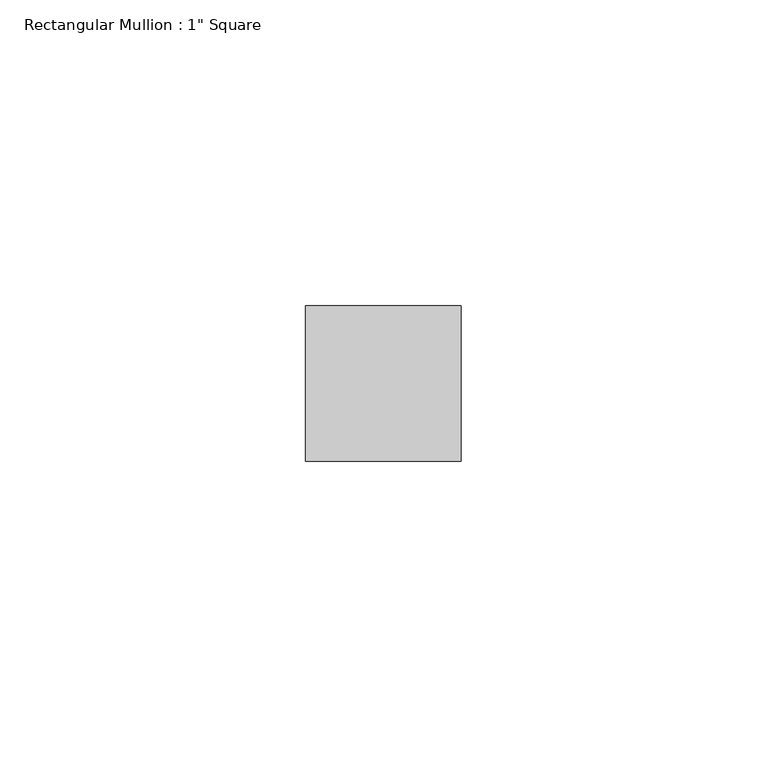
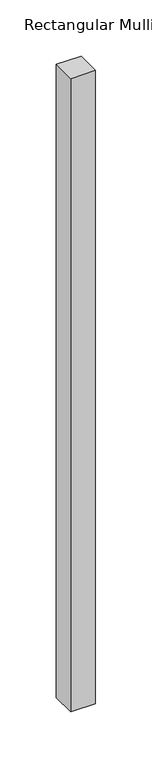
"""IFC4 building model written with IfcOpenShell, lengths in millimetres: member geometry."""

from ifc_helpers import new_model, si_unit, frame, origin, place, context, project, spatial, polyline, outline, extrude, source, transform, mapped, element, save


def member_b16b9eb4(model_context):
    return source(origin(), model_context, "Body", "SweptSolid", [
        extrude(outline(polyline([(12.7, 12.7), (12.7, -12.7), (-12.7, -12.7), (-12.7, 12.7), (12.7, 12.7)])), frame((0.0, 0.0, -686.5599456), z_axis=(0.0, 0.0, 1.0), x_axis=(1.0, 0.0, 0.0)), (0.0, 0.0, 1.0), 686.5599456),
    ])


if __name__ == "__main__":
    model = new_model("IFC4")
    model_context = context("Model", 3, world=origin())
    ifc_project = project(units=[si_unit("LENGTHUNIT", "METRE", prefix="MILLI")], contexts=[model_context])
    site = spatial("IfcSite", under=ifc_project)
    building = spatial("IfcBuilding", under=site)
    placement = place(None, origin())
    member_shape = member_b16b9eb4(model_context)
    element("IfcMember", 1, ObjectType="Rectangular Mullion : 1\" Square", at=placement, inside=building, context=model_context, shape_type="MappedRepresentation", body=[
        mapped(member_shape, transform((0.0, 0.0, 0.0), x_axis=(1.0, 0.0, 0.0), y_axis=(0.0, 1.0, 0.0), z_axis=(0.0, 0.0, 1.0))),
    ])
    save(model, "model.ifc")
